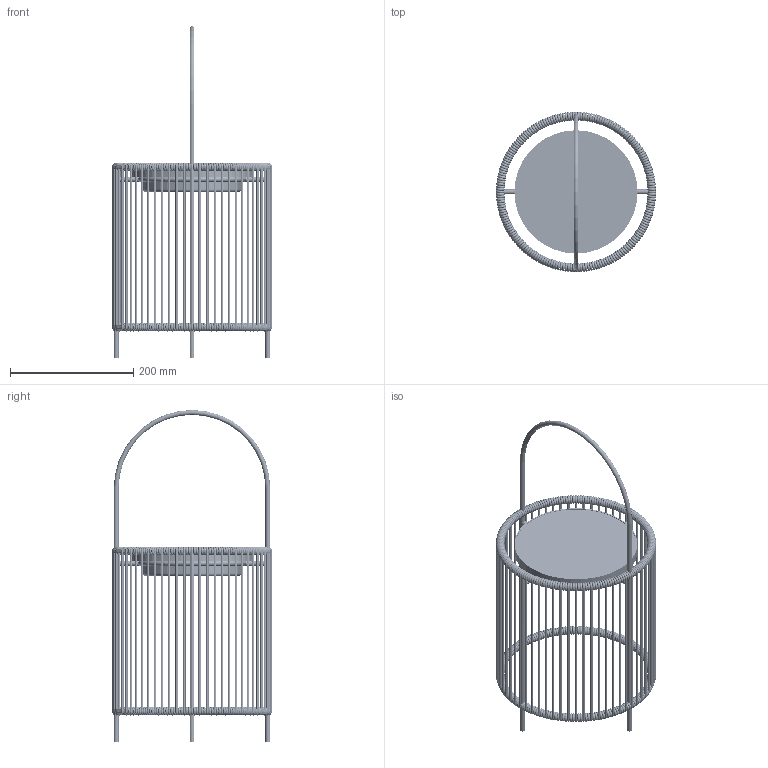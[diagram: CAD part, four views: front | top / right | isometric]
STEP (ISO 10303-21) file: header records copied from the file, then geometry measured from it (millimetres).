
FILE_DESCRIPTION(/* description */ (''),/* implementation_level */ '2;1');
FILE_NAME(/* name */ 'U:/01 COLLECTIE/02 OUTDOOR/01 Producten/Mora collection/3D/Vincentsheppard_Mora_LampWithHandle_54cmH.step',/* time_stamp */ '2021-11-24T09:48:03+01:00',/* author */ (''),/* organization */ (''),/* preprocessor_version */ 'ST-DEVELOPER v18.1',/* originating_system */ 'Autodesk Translation Framework v10.10.0.1391',/* authorisation */ '');
FILE_SCHEMA (('AUTOMOTIVE_DESIGN { 1 0 10303 214 3 1 1 }'));
Products named in the file (1): Vincentsheppard_Mora_LampWithHandle_54cmH
Bounding box: 260 x 260 x 539 mm (x, y, z)
Volume: 1507295.6 mm3; surface area: 537509.8 mm2
Topology: 80 solids, 80 shells, 498 faces, 1554 edges, 1084 vertices
Faces by surface type: torus 402, cylinder 84, plane 12
Full cylindrical faces by diameter (mm): 4 x65, 8 x12, 160 x1, 196 x1, 200 x1
Entity records: 40295 total; most frequent: CARTESIAN_POINT 24569, DIRECTION 3210, ORIENTED_EDGE 3108, AXIS2_PLACEMENT_3D 1565, EDGE_CURVE 1554, EDGE_LOOP 1140, VERTEX_POINT 1084, CIRCLE 1054
